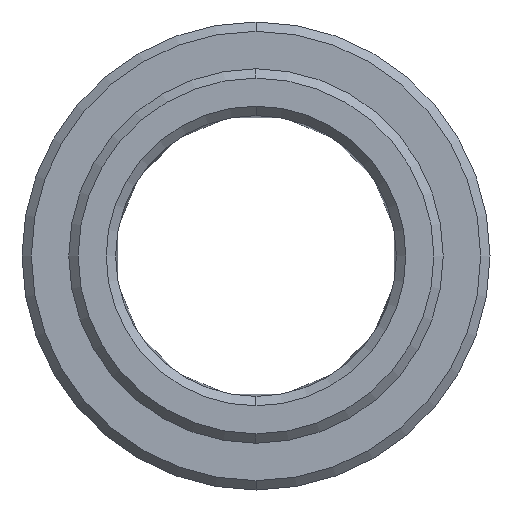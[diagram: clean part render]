
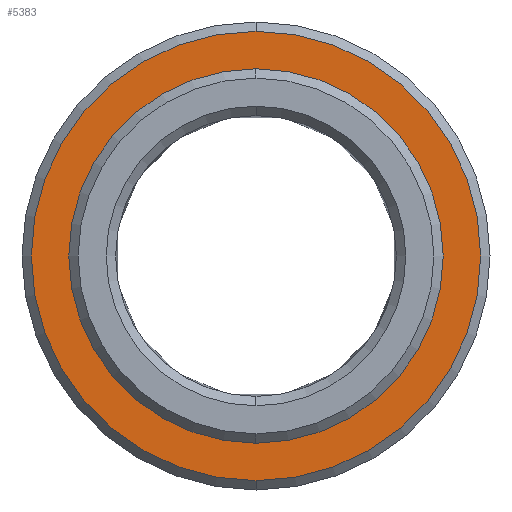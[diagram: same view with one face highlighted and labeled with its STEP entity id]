
A CAD part, left-side view. The second image highlights one B-rep face of the part: STEP entity #5383.
In plain terms, the highlighted planar face has unit normal (-1, 0, 0).
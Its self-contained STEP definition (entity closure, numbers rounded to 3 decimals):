
#3280=CARTESIAN_POINT('',(0.,0.,0.));
#3281=DIRECTION('',(1.,0.,0.));
#3282=DIRECTION('',(0.,0.,1.));
#3283=AXIS2_PLACEMENT_3D('',#3280,#3281,#3282);
#3285=CARTESIAN_POINT('',(0.,0.,0.));
#3286=DIRECTION('',(-1.,0.,0.));
#3287=DIRECTION('',(0.,0.,1.));
#3288=AXIS2_PLACEMENT_3D('',#3285,#3286,#3287);
#3290=CARTESIAN_POINT('',(0.,0.,0.));
#3291=DIRECTION('',(1.,0.,0.));
#3292=DIRECTION('',(0.,0.,-1.));
#3293=AXIS2_PLACEMENT_3D('',#3290,#3291,#3292);
#3295=CARTESIAN_POINT('',(0.,0.,0.));
#3296=DIRECTION('',(1.,0.,0.));
#3297=DIRECTION('',(0.,0.,1.));
#3298=AXIS2_PLACEMENT_3D('',#3295,#3296,#3297);
#3534=CARTESIAN_POINT('',(0.,0.,-12.));
#3535=CARTESIAN_POINT('',(0.,0.,12.));
#3536=VERTEX_POINT('',#3534);
#3537=VERTEX_POINT('',#3535);
#3608=CARTESIAN_POINT('',(0.,0.,10.));
#3609=CARTESIAN_POINT('',(0.,0.,-10.));
#3610=VERTEX_POINT('',#3608);
#3611=VERTEX_POINT('',#3609);
#5368=CARTESIAN_POINT('',(0.,0.,0.));
#5369=DIRECTION('',(1.,0.,0.));
#5370=DIRECTION('',(0.,0.,1.));
#5371=AXIS2_PLACEMENT_3D('',#5368,#5369,#5370);
#5372=PLANE('',#5371);
#5373=ORIENTED_EDGE('',*,*,#5348,.T.);
#5374=ORIENTED_EDGE('',*,*,#5362,.T.);
#5375=EDGE_LOOP('',(#5373,#5374));
#5376=FACE_OUTER_BOUND('',#5375,.F.);
#5378=ORIENTED_EDGE('',*,*,#5377,.F.);
#5380=ORIENTED_EDGE('',*,*,#5379,.T.);
#5381=EDGE_LOOP('',(#5378,#5380));
#5382=FACE_BOUND('',#5381,.F.);
#5383=ADVANCED_FACE('',(#5376,#5382),#5372,.F.);
#3284=CIRCLE('',#3283,10.);
#3289=CIRCLE('',#3288,10.);
#3294=CIRCLE('',#3293,12.);
#3299=CIRCLE('',#3298,12.);
#5348=EDGE_CURVE('',#3536,#3537,#3294,.T.);
#5362=EDGE_CURVE('',#3537,#3536,#3299,.T.);
#5377=EDGE_CURVE('',#3610,#3611,#3284,.T.);
#5379=EDGE_CURVE('',#3610,#3611,#3289,.T.);
